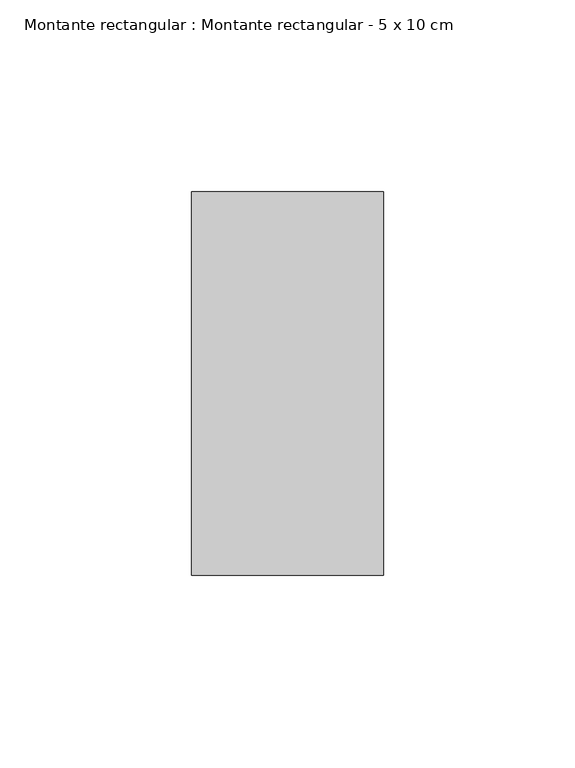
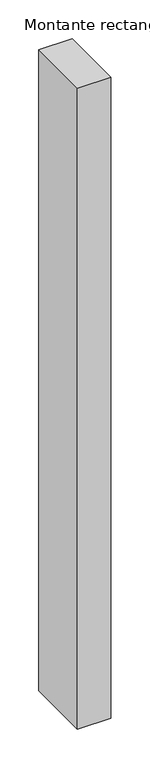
"""IFC4 building model written with IfcOpenShell, lengths in millimetres: member geometry, Montante rectangular : Montante rectangular - 5 x 10 cm."""

import ifcopenshell
import ifcopenshell.guid

model = None  # the IFC model being written
_history = None  # IfcOwnerHistory: only IFC2X3 demands one
_inside = {}  # id of a spatial element -> (the spatial element, [elements in it])
_under = {}  # id of a project, library or spatial element -> (it, [spatial elements below it])
_declared = {}  # id of a project -> (the project, [libraries it declares])
_typed = {}  # id of a type object -> (the type object, [elements of that type])
_made_of = {}  # id of a material, layer set ... -> (it, [elements and type objects made of it])


def new_model(schema):
    """Start an empty IFC model of exactly this schema.

    Asked for "IFC4X3", IfcOpenShell would pick the latest addendum, in which some entities
    have other attributes; the version numbers below select the first issue.
    IFC2X3 requires an IfcOwnerHistory on every rooted entity: one is made here for all.
    """
    global model, _history
    if schema == "IFC4X3":
        model = ifcopenshell.file(schema_version=(4, 3, 0, 0))
    else:
        model = ifcopenshell.file(schema=schema)
    _inside.clear()
    _under.clear()
    _declared.clear()
    _typed.clear()
    _made_of.clear()
    _history = None
    if model.schema == "IFC2X3":
        org = make("IfcOrganization", Name="unknown")
        user = make(
            "IfcPersonAndOrganization",
            ThePerson=make("IfcPerson", FamilyName="unknown"),
            TheOrganization=org,
        )
        app = make(
            "IfcApplication",
            ApplicationDeveloper=org,
            Version="unknown",
            ApplicationFullName="unknown",
            ApplicationIdentifier="unknown",
        )
        _history = make(
            "IfcOwnerHistory",
            OwningUser=user,
            OwningApplication=app,
            ChangeAction="ADDED",
            CreationDate=0,
        )
    return model


def make(cls, **values):
    """One entity of the class cls with the attributes given. An attribute that is None is left unset."""
    return model.create_entity(
        cls, **{name: value for name, value in values.items() if value is not None}
    )


def rooted(cls, **values):
    """An entity with a GlobalId (a new one), such as an element, a storey or a relation."""
    return make(cls, GlobalId=ifcopenshell.guid.new(), OwnerHistory=_history, **values)


def si_unit(unit_type, name, prefix=None):
    """IfcSIUnit, for example si_unit("LENGTHUNIT", "METRE", prefix="MILLI")."""
    return make("IfcSIUnit", UnitType=unit_type, Prefix=prefix, Name=name)


def assignment(units):
    """IfcUnitAssignment: the units of a project."""
    return None if units is None else make("IfcUnitAssignment", Units=units)


def point(xyz):
    """IfcCartesianPoint."""
    return None if xyz is None else make("IfcCartesianPoint", Coordinates=xyz)


def direction(xyz):
    """IfcDirection."""
    return None if xyz is None else make("IfcDirection", DirectionRatios=xyz)


def frame(location, z_axis=None, x_axis=None):
    """IfcAxis2Placement3D, a coordinate frame: its origin and axes. An axis left out is left unset."""
    return make(
        "IfcAxis2Placement3D",
        Location=point(location),
        Axis=direction(z_axis),
        RefDirection=direction(x_axis),
    )


def origin():
    """The frame at (0, 0, 0) with its axes left unset."""
    return frame((0.0, 0.0, 0.0))


def place(relative_to, where):
    """IfcLocalPlacement: puts the frame where relative to a parent placement (None: the world)."""
    return make(
        "IfcLocalPlacement", PlacementRelTo=relative_to, RelativePlacement=where
    )


def context(
    kind, dimensions, precision=None, world=None, true_north=None, identifier=None
):
    """IfcGeometricRepresentationContext, for example the 3D "Model" context."""
    return make(
        "IfcGeometricRepresentationContext",
        ContextIdentifier=identifier,
        ContextType=kind,
        CoordinateSpaceDimension=dimensions,
        Precision=precision,
        WorldCoordinateSystem=world,
        TrueNorth=true_north,
    )


def project(units=None, contexts=None):
    """IfcProject with its units and contexts."""
    return rooted(
        "IfcProject",
        Name="project",
        RepresentationContexts=contexts,
        UnitsInContext=assignment(units),
    )


def spatial(cls, under=None, at=None, **own):
    """A site, building, storey or space (cls), placed at a placement, below another one or the project."""
    s = rooted(cls, ObjectPlacement=at, **own)
    if under is not None:
        _under.setdefault(under.id(), (under, []))[1].append(s)
    return s


def polyline(points):
    """IfcPolyline through the points."""
    return make("IfcPolyline", Points=[point(p) for p in points])


def outline(outer, holes=None, kind="AREA"):
    """IfcArbitraryClosedProfileDef: a profile drawn as a closed curve; with holes, ...WithVoids."""
    if holes is None:
        return make("IfcArbitraryClosedProfileDef", ProfileType=kind, OuterCurve=outer)
    return make(
        "IfcArbitraryProfileDefWithVoids",
        ProfileType=kind,
        OuterCurve=outer,
        InnerCurves=holes,
    )


def extrude(swept, where, along, depth):
    """IfcExtrudedAreaSolid: the profile swept, set in the frame where, extruded along a direction by depth."""
    return make(
        "IfcExtrudedAreaSolid",
        SweptArea=swept,
        Position=where,
        ExtrudedDirection=direction(along),
        Depth=depth,
    )


def shape(context_of_items, identifier, shape_type, items):
    """IfcShapeRepresentation: the items that make up one representation, for example the "Body"."""
    return make(
        "IfcShapeRepresentation",
        ContextOfItems=context_of_items,
        RepresentationIdentifier=identifier,
        RepresentationType=shape_type,
        Items=items,
    )


def source(mapping_origin, context_of_items, identifier, shape_type, items):
    """IfcRepresentationMap: a shape defined once, which mapped items show again and again."""
    return make(
        "IfcRepresentationMap",
        MappingOrigin=mapping_origin,
        MappedRepresentation=shape(context_of_items, identifier, shape_type, items),
    )


def transform(
    local_origin,
    x_axis=None,
    y_axis=None,
    z_axis=None,
    scale=None,
    scale2=None,
    scale3=None,
    uniform=True,
):
    """IfcCartesianTransformationOperator3D, or its non-uniform kind. x_axis, y_axis, z_axis: its Axis1, 2, 3."""
    if uniform:
        return make(
            "IfcCartesianTransformationOperator3D",
            Axis1=direction(x_axis),
            Axis2=direction(y_axis),
            LocalOrigin=point(local_origin),
            Scale=scale,
            Axis3=direction(z_axis),
        )
    return make(
        "IfcCartesianTransformationOperator3DnonUniform",
        Axis1=direction(x_axis),
        Axis2=direction(y_axis),
        LocalOrigin=point(local_origin),
        Scale=scale,
        Axis3=direction(z_axis),
        Scale2=scale2,
        Scale3=scale3,
    )


def mapped(mapping_source, mapping_target):
    """IfcMappedItem: shows the shape of a source again, moved by a transform."""
    return make(
        "IfcMappedItem", MappingSource=mapping_source, MappingTarget=mapping_target
    )


def made_of(thing, what):
    """Note that an element or type object is made of a material, layer set ...; save() writes the relation."""
    if what is not None:
        _made_of.setdefault(what.id(), (what, []))[1].append(thing)
    return thing


def element(
    cls,
    number,
    at=None,
    inside=None,
    cuts=None,
    type_object=None,
    material=None,
    context=None,
    identifier="Body",
    shape_type=None,
    held_by="IfcProductDefinitionShape",
    body=None,
    shapes=None,
    **own,
):
    """One element of the class cls, such as IfcWall. Its Tag is "e" and its number.

    at: its placement. inside: the storey or other place that contains it. cuts: it is an
    opening in that element (IfcRelVoidsElement). A single representation is given by context,
    identifier, shape_type and body (its items); several are given by shapes. held_by: the class
    of the entity that holds the representations. save() writes the other relations.
    """
    e = rooted(cls, Tag="e%d" % number, ObjectPlacement=at, **own)
    if body is not None:
        shapes = [shape(context, identifier, shape_type, body)]
    if shapes is not None:
        e.Representation = make(held_by, Representations=shapes)
    if inside is not None:
        _inside.setdefault(inside.id(), (inside, []))[1].append(e)
    if cuts is not None:
        rooted(
            "IfcRelVoidsElement", RelatingBuildingElement=cuts, RelatedOpeningElement=e
        )
    if type_object is not None:
        _typed.setdefault(type_object.id(), (type_object, []))[1].append(e)
    return made_of(e, material)


def aggregate(whole, parts):
    """IfcRelAggregates: a whole, such as a stair, and the parts it consists of."""
    return rooted("IfcRelAggregates", RelatingObject=whole, RelatedObjects=parts)


def save(model, path):
    """Write the relations noted so far, then the file.

    IfcRelAggregates (storeys below a building ...), IfcRelContainedInSpatialStructure (elements
    in a storey), IfcRelDefinesByType, IfcRelAssociatesMaterial and IfcRelDeclares: one each for
    every whole, place, type object, material and project.
    """
    for whole, parts in _under.values():
        aggregate(whole, parts)
    for where, things in _inside.values():
        rooted(
            "IfcRelContainedInSpatialStructure",
            RelatedElements=things,
            RelatingStructure=where,
        )
    for kind, things in _typed.values():
        rooted("IfcRelDefinesByType", RelatedObjects=things, RelatingType=kind)
    for what, things in _made_of.values():
        rooted("IfcRelAssociatesMaterial", RelatedObjects=things, RelatingMaterial=what)
    for by, libraries in _declared.values():
        rooted("IfcRelDeclares", RelatingContext=by, RelatedDefinitions=libraries)
    model.write(path)


def montante_rectangular_montante_rectangular_5_x_10_cm_970d32d5(model_context):
    return source(origin(), model_context, "Body", "SweptSolid", [
        extrude(outline(polyline([(25.0, 50.0), (25.0, -50.0), (-25.0, -50.0), (-25.0, 50.0), (25.0, 50.0)])), frame((0.0, 0.0, -1010.7145163), z_axis=(0.0, 0.0, 1.0), x_axis=(1.0, 0.0, 0.0)), (0.0, 0.0, 1.0), 1010.7145163),
    ])


if __name__ == "__main__":
    model = new_model("IFC4")
    model_context = context("Model", 3, world=origin())
    ifc_project = project(units=[si_unit("LENGTHUNIT", "METRE", prefix="MILLI")], contexts=[model_context])
    site = spatial("IfcSite", under=ifc_project)
    building = spatial("IfcBuilding", under=site)
    placement = place(None, origin())
    montante_rectangular_montante_rectangular_5_x_10_cm_shape = montante_rectangular_montante_rectangular_5_x_10_cm_970d32d5(model_context)
    element("IfcMember", 1, ObjectType="Montante rectangular : Montante rectangular - 5 x 10 cm", at=placement, inside=building, context=model_context, shape_type="MappedRepresentation", body=[
        mapped(montante_rectangular_montante_rectangular_5_x_10_cm_shape, transform((0.0, 0.0, 0.0), x_axis=(1.0, 0.0, 0.0), y_axis=(0.0, 1.0, 0.0), z_axis=(0.0, 0.0, 1.0))),
    ])
    save(model, "model.ifc")
